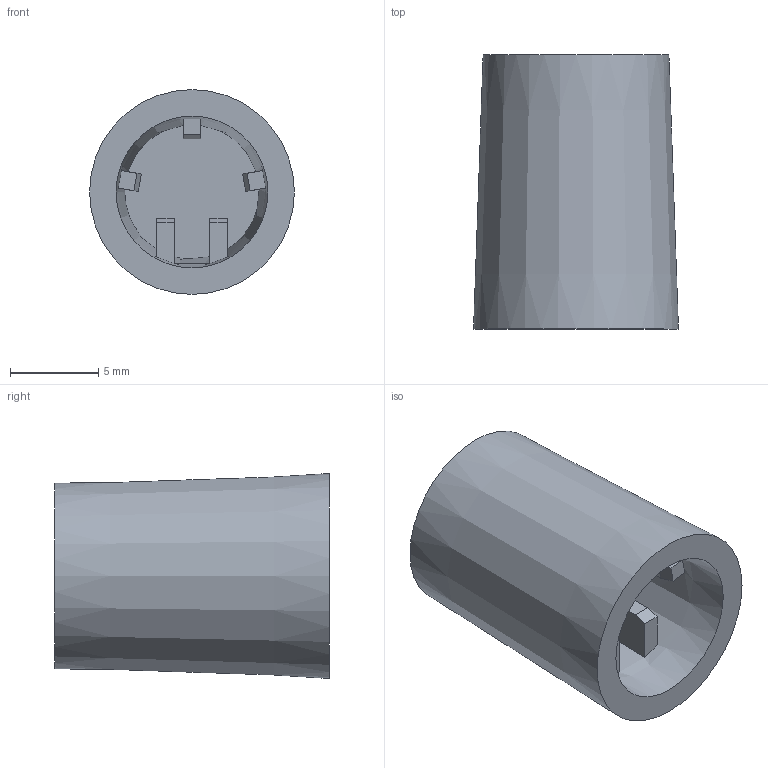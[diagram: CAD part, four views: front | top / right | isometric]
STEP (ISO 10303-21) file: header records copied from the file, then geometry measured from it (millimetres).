
FILE_DESCRIPTION(/* description */ (''),/* implementation_level */ '2;1');
FILE_NAME(/* name */ 'DU03_2105_ENCODER CAP revA.stp',/* time_stamp */ '2025-04-08T09:29:33+02:00',/* author */ ('IntuitiveInstruments'),/* organization */ (''),/* preprocessor_version */ 'ST-DEVELOPER v20',/* originating_system */ 'Autodesk Inventor 2025',/* authorisation */ '');
FILE_SCHEMA (('AUTOMOTIVE_DESIGN { 1 0 10303 214 3 1 1 }'));
Length unit declared in the file: millimetre
Products named in the file (1): DU03_2105_ENCODEUR CAP revA
Bounding box: 11.58 x 15.5 x 11.58 mm (x, y, z)
Volume: 844.5 mm3; surface area: 1230.2 mm2
Topology: 1 solids, 1 shells, 30 faces, 81 edges, 54 vertices
Faces by surface type: plane 28, cone 2
Entity records: 966 total; most frequent: CARTESIAN_POINT 186, ORIENTED_EDGE 162, DIRECTION 147, EDGE_CURVE 81, LINE 57, VECTOR 57, VERTEX_POINT 54, AXIS2_PLACEMENT_3D 45
